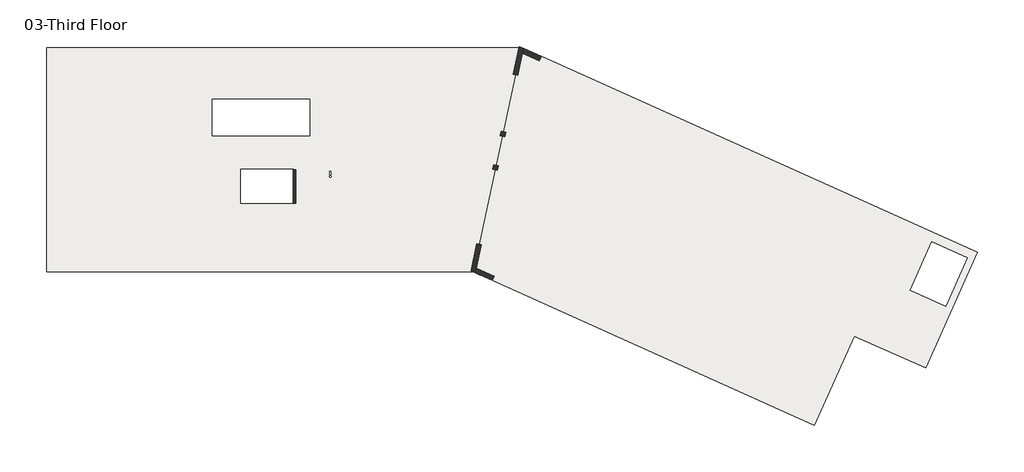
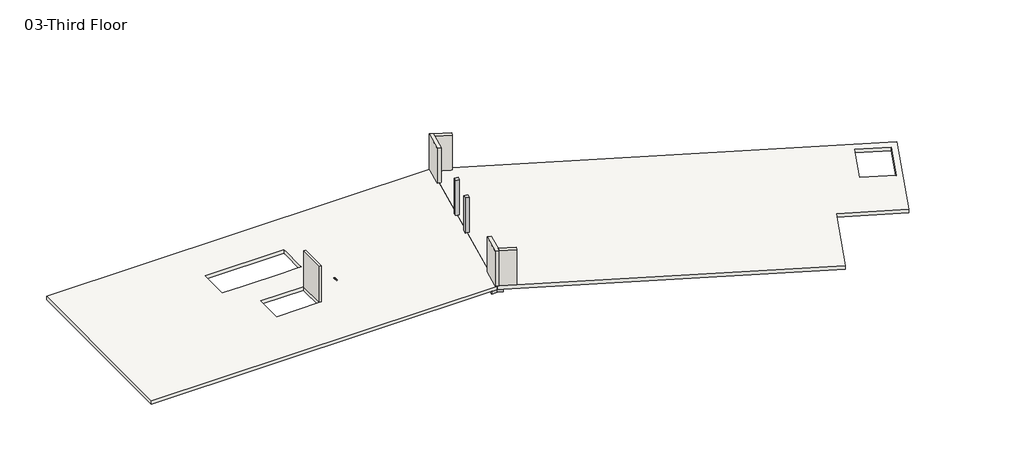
# One storey: 5 walls, 3 beams, 2 columns, 2 slabs.
"""IFC4 building model written with IfcOpenShell, lengths in millimetres."""

from ifc_helpers import new_model, si_unit, frame, origin, place, context, project, spatial, polyline, circle_curve, outline, extrude, faceted_brep, element, save
from ifc_brep_helpers import plane_surface, revolved_surface, advanced_brep

model = new_model("IFC4")

# Units and contexts
model_context = context("Model", 3, world=origin())
ifc_project = project(units=[si_unit("LENGTHUNIT", "METRE", prefix="MILLI")], contexts=[model_context])

# Site, building, storey
site = spatial("IfcSite", under=ifc_project)
building = spatial("IfcBuilding", under=site)
storey = spatial("IfcBuildingStorey", under=building, Name="03-Third Floor", Elevation=10058.4)

# Beams
placement = place(None, origin())
element("IfcBeam", 1, ObjectType="Concrete-Rectangular Beam : 33\" x 18\"", at=placement, inside=storey, context=model_context, shape_type="SweptSolid", body=[
    extrude(outline(polyline([(30288.1466789, -5386.3746605), (29418.8803327, -5200.1033006), (30631.1596114, 457.2), (31098.7387393, 457.2), (31501.5663945, 276.250679), (30288.1466789, -5386.3746605)])), frame((0.0, 0.0, 9525.0), z_axis=(0.0, 0.0, 1.0), x_axis=(1.0, 0.0, 0.0)), (0.0, 0.0, 1.0), 228.6),
])
element("IfcBeam", 2, ObjectType="Concrete-Rectangular Beam : 33\" x 18\"", at=placement, inside=storey, context=model_context, shape_type="SweptSolid", body=[
    extrude(outline(polyline([(28946.1350665, -7406.2478765), (29418.8803327, -5200.1033006), (30288.1466789, -5386.3746605), (29815.4014126, -7592.5192364), (28946.1350665, -7406.2478765)])), frame((0.0, 0.0, 9525.0), z_axis=(0.0, 0.0, 1.0), x_axis=(1.0, 0.0, 0.0)), (0.0, 0.0, 1.0), 228.6),
])
element("IfcBeam", 3, ObjectType="Concrete-Rectangular Beam : 33\" x 18\"", at=placement, inside=storey, context=model_context, shape_type="SweptSolid", body=[
    extrude(outline(polyline([(28946.1350665, -7406.2478765), (29815.4014126, -7592.5192364), (28306.6092516, -14633.549321), (27903.7815965, -14452.6), (27436.2024686, -14452.6), (28946.1350665, -7406.2478765)])), frame((0.0, 0.0, 9525.0), z_axis=(0.0, 0.0, 1.0), x_axis=(1.0, 0.0, 0.0)), (0.0, 0.0, 1.0), 228.6),
])

# Columns
element("IfcColumn", 4, ObjectType="Concrete-Rectangular-Column : 12 x 12", at=placement, inside=storey, context=model_context, shape_type="SweptSolid", body=[
    extrude(outline(polyline([(29275.3181702, -7324.750679), (29573.3523461, -7388.6151452), (29509.4878798, -7686.649321), (29211.453704, -7622.7848548), (29275.3181702, -7324.750679)])), frame((0.0, 0.0, 10058.4), z_axis=(0.0, 0.0, 1.0), x_axis=(1.0, 0.0, 0.0)), (0.0, 0.0, 1.0), 3048.0),
])
element("IfcColumn", 5, ObjectType="Concrete-Rectangular-Column : 12 x 12", at=placement, inside=storey, context=model_context, shape_type="SweptSolid", body=[
    extrude(outline(polyline([(29748.8467417, -5114.950679), (30046.8809175, -5178.8151452), (29983.0164512, -5476.849321), (29684.9822754, -5412.9848548), (29748.8467417, -5114.950679)])), frame((0.0, 0.0, 10058.4), z_axis=(0.0, 0.0, 1.0), x_axis=(1.0, 0.0, 0.0)), (0.0, 0.0, 1.0), 3048.0),
])

# Slabs
element("IfcSlab", 6, ObjectType="RC Slab 12\"", at=placement, inside=storey, context=model_context, shape_type="AdvancedBrep", body=[
    advanced_brep(
    [(-457.2, 457.2, 9753.6), (30631.1596114, 457.2, 9753.6), (31098.7387393, 457.2, 9753.6), (27903.7815965, -14452.6, 9753.6), (27436.2024686, -14452.6, 9753.6), (-457.2, -14452.6, 9753.6), (17030.7, -2984.5, 9753.6), (10553.7, -2984.5, 9753.6), (10553.7, -5422.9, 9753.6), (10858.5, -5422.9, 9753.6), (17030.7, -5422.9, 9753.6), (17030.7, -5118.1, 9753.6), (17030.7, -3289.3, 9753.6), (18347.8020543, -8109.4381113, 9753.6), (18449.4020543, -8109.4381113, 9753.6), (18347.8020543, -7957.0381113, 9753.6), (18449.4020543, -7957.0381113, 9753.6), (18347.8020543, -7804.6381113, 9753.6), (18449.4020543, -7804.6381113, 9753.6), (15951.2, -7633.3081651, 9753.6), (12446.0, -7633.3081651, 9753.6), (12446.0, -7683.5, 9753.6), (12446.0, -9893.3, 9753.6), (15951.2, -9893.3, 9753.6), (15951.2, -7683.5, 9753.6), (31098.7387393, 457.2, 10058.4), (-457.2, 457.2, 10058.4), (-457.2, -14452.6, 10058.4), (27903.7815965, -14452.6, 10058.4), (10553.7, -2984.5, 10058.4), (17030.7, -2984.5, 10058.4), (17030.7, -3289.3, 10058.4), (17030.7, -5118.1, 10058.4), (17030.7, -5422.9, 10058.4), (16522.7, -5422.9, 10058.4), (15608.3, -5422.9, 10058.4), (14389.1, -5422.9, 10058.4), (13474.7, -5422.9, 10058.4), (12242.8, -5422.9, 10058.4), (11328.4, -5422.9, 10058.4), (10553.7, -5422.9, 10058.4), (18449.4020543, -8109.4381113, 10058.4), (18347.8020543, -8109.4381113, 10058.4), (18449.4020543, -7957.0381113, 10058.4), (18347.8020543, -7957.0381113, 10058.4), (18449.4020543, -7804.6381113, 10058.4), (18347.8020543, -7804.6381113, 10058.4), (12446.0, -7633.3081651, 10058.4), (15951.2, -7633.3081651, 10058.4), (15951.2, -7683.5, 10058.4), (15951.2, -9893.3, 10058.4), (12446.0, -9893.3, 10058.4), (12446.0, -7683.5, 10058.4)],
    [
        (0, 1),
        (1, 2),
        (2, 3),
        (3, 4),
        (4, 5),
        (5, 0),
        (6, 7),
        (7, 8),
        (8, 9),
        (9, 10),
        (10, 11),
        (11, 12),
        (12, 6),
        (13, 14, circle_curve(frame((18398.6020543, -8109.4381113, 9753.6), z_axis=(0.0, 0.0, 1.0), x_axis=(1.0, 0.0, 0.0)), 50.8)),
        (14, 13, circle_curve(frame((18398.6020543, -8109.4381113, 9753.6), z_axis=(0.0, 0.0, 1.0), x_axis=(1.0, 0.0, 0.0)), 50.8)),
        (15, 16, circle_curve(frame((18398.6020543, -7957.0381113, 9753.6), z_axis=(0.0, 0.0, 1.0), x_axis=(1.0, 0.0, 0.0)), 50.8)),
        (16, 15, circle_curve(frame((18398.6020543, -7957.0381113, 9753.6), z_axis=(0.0, 0.0, 1.0), x_axis=(1.0, 0.0, 0.0)), 50.8)),
        (17, 18, circle_curve(frame((18398.6020543, -7804.6381113, 9753.6), z_axis=(0.0, 0.0, 1.0), x_axis=(1.0, 0.0, 0.0)), 50.8)),
        (18, 17, circle_curve(frame((18398.6020543, -7804.6381113, 9753.6), z_axis=(0.0, 0.0, 1.0), x_axis=(1.0, 0.0, 0.0)), 50.8)),
        (19, 20),
        (20, 21),
        (21, 22),
        (22, 23),
        (23, 24),
        (24, 19),
        (25, 26),
        (26, 27),
        (27, 28),
        (28, 25),
        (29, 30),
        (30, 31),
        (31, 32),
        (32, 33),
        (33, 34),
        (34, 35),
        (35, 36),
        (36, 37),
        (37, 38),
        (38, 39),
        (39, 40),
        (40, 29),
        (41, 42, circle_curve(frame((18398.6020543, -8109.4381113, 10058.4), z_axis=(0.0, 0.0, -1.0), x_axis=(1.0, 0.0, 0.0)), 50.8)),
        (42, 41, circle_curve(frame((18398.6020543, -8109.4381113, 10058.4), z_axis=(0.0, 0.0, -1.0), x_axis=(1.0, 0.0, 0.0)), 50.8)),
        (43, 44, circle_curve(frame((18398.6020543, -7957.0381113, 10058.4), z_axis=(0.0, 0.0, -1.0), x_axis=(1.0, 0.0, 0.0)), 50.8)),
        (44, 43, circle_curve(frame((18398.6020543, -7957.0381113, 10058.4), z_axis=(0.0, 0.0, -1.0), x_axis=(1.0, 0.0, 0.0)), 50.8)),
        (45, 46, circle_curve(frame((18398.6020543, -7804.6381113, 10058.4), z_axis=(0.0, 0.0, -1.0), x_axis=(1.0, 0.0, 0.0)), 50.8)),
        (46, 45, circle_curve(frame((18398.6020543, -7804.6381113, 10058.4), z_axis=(0.0, 0.0, -1.0), x_axis=(1.0, 0.0, 0.0)), 50.8)),
        (47, 48),
        (48, 49),
        (49, 50),
        (50, 51),
        (51, 52),
        (52, 47),
        (0, 26),
        (25, 2),
        (28, 3),
        (27, 5),
        (6, 30),
        (29, 7),
        (40, 8),
        (33, 10),
        (19, 48),
        (47, 20),
        (51, 22),
        (50, 23),
        (13, 42),
        (41, 14),
        (15, 44),
        (43, 16),
        (17, 46),
        (45, 18),
    ],
    [
        plane_surface(frame((0.0, 457.2, 9753.6), z_axis=(0.0, 0.0, -1.0), x_axis=(1.0, 0.0, 0.0))),
        plane_surface(frame((0.0, 457.2, 10058.4), z_axis=(0.0, 0.0, 1.0), x_axis=(-1.0, 0.0, 0.0))),
        plane_surface(frame((-457.2, 457.2, 9753.6), z_axis=(0.0, 1.0, 0.0), x_axis=(0.0, 0.0, 1.0))),
        plane_surface(frame((31098.7387393, 457.2, 9753.6), z_axis=(0.9778024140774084, -0.2095290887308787, 0.0), x_axis=(0.0, 0.0, 1.0))),
        plane_surface(frame((27903.7815965, -14452.6, 9753.6), z_axis=(0.0, -1.0, 0.0), x_axis=(0.0, 0.0, 1.0))),
        plane_surface(frame((-457.2, -14452.6, 9753.6), z_axis=(-1.0, 0.0, 0.0), x_axis=(0.0, 0.0, 1.0))),
        plane_surface(frame((17030.7, -2984.5, 17068.8), z_axis=(0.0, -1.0, 0.0), x_axis=(0.0, 0.0, -1.0))),
        plane_surface(frame((10553.7, -2984.5, 17068.8), z_axis=(1.0, 0.0, 0.0), x_axis=(0.0, 0.0, -1.0))),
        plane_surface(frame((10553.7, -5422.9, 17068.8), z_axis=(0.0, 1.0, 0.0), x_axis=(0.0, 0.0, -1.0))),
        plane_surface(frame((17030.7, -5422.9, 17068.8), z_axis=(-1.0, 0.0, 0.0), x_axis=(0.0, 0.0, -1.0))),
        plane_surface(frame((15951.2, -7633.3081651, 17068.8), z_axis=(0.0, -1.0, 0.0), x_axis=(0.0, 0.0, -1.0))),
        plane_surface(frame((12446.0, -7633.3081651, 17068.8), z_axis=(1.0, 0.0, 0.0), x_axis=(0.0, 0.0, -1.0))),
        plane_surface(frame((12446.0, -9893.3, 17068.8), z_axis=(0.0, 1.0, 0.0), x_axis=(0.0, 0.0, -1.0))),
        plane_surface(frame((15951.2, -9893.3, 17068.8), z_axis=(-1.0, 0.0, 0.0), x_axis=(0.0, 0.0, -1.0))),
        revolved_surface(polyline([(18449.4020543, -8109.4381113, 10058.4), (18449.4020543, -8109.4381113, 9753.6)]), (18398.6020543, -8109.4381113, 9448.8), (0.0, 0.0, 1.0)),
        revolved_surface(polyline([(18449.4020543, -7957.0381113, 10058.4), (18449.4020543, -7957.0381113, 9753.6)]), (18398.6020543, -7957.0381113, 9448.8), (0.0, 0.0, 1.0)),
        revolved_surface(polyline([(18449.4020543, -7804.6381113, 10058.4), (18449.4020543, -7804.6381113, 9753.6)]), (18398.6020543, -7804.6381113, 9448.8), (0.0, 0.0, 1.0)),
    ],
    [
        (0, [[1, 2, 3, 4, 5, 6], [7, 8, 9, 10, 11, 12, 13], [14, 15], [16, 17], [18, 19], [20, 21, 22, 23, 24, 25]]),
        (1, [[26, 27, 28, 29], [30, 31, 32, 33, 34, 35, 36, 37, 38, 39, 40, 41], [42, 43], [44, 45], [46, 47], [48, 49, 50, 51, 52, 53]]),
        (2, [[-2, -1, 54, -26, 55]]),
        (3, [[-3, -55, -29, 56]]),
        (4, [[-5, -4, -56, -28, 57]]),
        (5, [[-6, -57, -27, -54]]),
        (6, [[58, -30, 59, -7]]),
        (7, [[-59, -41, 60, -8]]),
        (8, [[-60, -40, -39, -38, -37, -36, -35, -34, 61, -10, -9]]),
        (9, [[-58, -13, -12, -11, -61, -33, -32, -31]]),
        (10, [[62, -48, 63, -20]]),
        (11, [[-63, -53, -52, 64, -22, -21]]),
        (12, [[-64, -51, 65, -23]]),
        (13, [[-62, -25, -24, -65, -50, -49]]),
        (14, [[66, -42, 67, -14]]),
        (14, [[-66, -15, -67, -43]]),
        (15, [[68, -44, 69, -16]]),
        (15, [[-68, -17, -69, -45]]),
        (16, [[70, -46, 71, -18]]),
        (16, [[-70, -19, -71, -47]]),
    ],
),
])
element("IfcSlab", 7, ObjectType="RC Slab 12\"", at=placement, inside=storey, context=model_context, shape_type="Brep", body=[
    faceted_brep([(61413.0546278, -13159.9258537, 9753.6), (57962.8673107, -20840.7, 9753.6), (53236.2370668, -18717.5078049, 9753.6), (50577.0429205, -24637.3804878, 9753.6), (28306.6092516, -14633.549321, 9753.6), (27903.7815965, -14452.6, 9753.6), (31098.7387393, 457.2, 9753.6), (31501.5663945, 276.250679, 9753.6), (59309.9346278, -16726.0858537, 9753.6), (60746.211701, -13528.6595122, 9753.6), (58382.896579, -12467.0634146, 9753.6), (56946.6195059, -15664.4897561, 9753.6), (57962.8673107, -20840.7, 10058.4), (61413.0546278, -13159.9258537, 10058.4), (32422.724802, -137.5317073, 10058.4), (31240.9132058, 393.3355338, 10058.4), (31098.7387393, 457.2, 10058.4), (27903.7815965, -14452.6, 10058.4), (28045.956063, -14516.4644662, 10058.4), (29168.1882864, -15020.5687805, 10058.4), (50577.0429205, -24637.3804878, 10058.4), (53236.2370668, -18717.5078049, 10058.4), (60746.211701, -13528.6595122, 10058.4), (59309.9346278, -16726.0858537, 10058.4), (56946.6195059, -15664.4897561, 10058.4), (58382.896579, -12467.0634146, 10058.4)], [[[0, 1, 2, 3, 4, 5, 6, 7], [8, 9, 10, 11]], [[12, 13, 14, 15, 16, 17, 18, 19, 20, 21], [22, 23, 24, 25]], [[1, 0, 13, 12]], [[2, 1, 12, 21]], [[3, 2, 21, 20]], [[5, 4, 3, 20, 19, 18, 17]], [[6, 5, 17, 16]], [[0, 7, 6, 16, 15, 14, 13]], [[8, 23, 22, 9]], [[9, 22, 25, 10]], [[10, 25, 24, 11]], [[23, 8, 11, 24]]]),
])

# Walls
element("IfcWall", 8, ObjectType="6\" Blockwork with render", at=placement, inside=storey, context=model_context, shape_type="SweptSolid", body=[
    extrude(outline(polyline([(16103.6, -7683.5), (16103.6, -9893.3), (15951.2, -9893.3), (15951.2, -7683.5), (16103.6, -7683.5)])), frame((0.0, 0.0, 10058.4), z_axis=(0.0, 0.0, 1.0), x_axis=(1.0, 0.0, 0.0)), (0.0, 0.0, 1.0), 3149.6),
])
element("IfcWall", 9, ObjectType="RC Wall 12\"", at=placement, inside=storey, context=model_context, shape_type="Brep", body=[
    faceted_brep([(30956.5642728, 521.0644662, 10058.4), (30564.3601247, -1309.221558, 10058.4), (30564.3601247, -1309.221558, 13106.4), (30956.5642728, 521.0644662, 13106.4), (30862.3943005, -1373.0860243, 10058.4), (31175.5989201, 88.5355338, 10058.4), (31240.9132058, 393.3355338, 10058.4), (31240.9132058, 393.3355338, 13106.4), (31175.5989201, 88.5355338, 13106.4), (30862.3943005, -1373.0860243, 13106.4), (31098.7387393, 457.2, 10058.4)], [[[0, 1, 2, 3]], [[4, 5, 6, 7, 8, 9]], [[1, 0, 10, 6, 5, 4]], [[1, 4, 9, 2]], [[6, 10, 0, 3, 7]], [[3, 2, 9, 8, 7]]]),
])
element("IfcWall", 10, ObjectType="RC Wall 12\"", at=placement, inside=storey, context=model_context, shape_type="SweptSolid", body=[
    extrude(outline(polyline([(32297.8311435, -415.5687805), (31175.5989201, 88.5355338), (31240.9132058, 393.3355338), (32422.724802, -137.5317073), (32297.8311435, -415.5687805)])), frame((0.0, 0.0, 10058.4), z_axis=(0.0, 0.0, 1.0), x_axis=(1.0, 0.0, 0.0)), (0.0, 0.0, 1.0), 3048.0),
])
element("IfcWall", 11, ObjectType="RC Wall 12\"", at=placement, inside=storey, context=model_context, shape_type="Brep", body=[
    faceted_brep([(28150.0697886, -12575.9097931, 10058.4), (27761.6071299, -14388.7355338, 10058.4), (27761.6071299, -14388.7355338, 13106.4), (28150.0697886, -12575.9097931, 13106.4), (28045.956063, -14516.4644662, 10058.4), (28111.2703487, -14211.6644662, 10058.4), (28448.1039645, -12639.7742594, 10058.4), (28448.1039645, -12639.7742594, 13106.4), (28111.2703487, -14211.6644662, 13106.4), (28045.956063, -14516.4644662, 13106.4), (27903.7815965, -14452.6, 10058.4)], [[[0, 1, 2, 3]], [[4, 5, 6, 7, 8, 9]], [[1, 0, 6, 5, 4, 10]], [[6, 0, 3, 7]], [[1, 10, 4, 9, 2]], [[3, 2, 9, 8, 7]]]),
])
element("IfcWall", 12, ObjectType="RC Wall 12\"", at=placement, inside=storey, context=model_context, shape_type="SweptSolid", body=[
    extrude(outline(polyline([(29168.1882864, -15020.5687805), (28045.956063, -14516.4644662), (28111.2703487, -14211.6644662), (29293.0819449, -14742.5317073), (29168.1882864, -15020.5687805)])), frame((0.0, 0.0, 10058.4), z_axis=(0.0, 0.0, 1.0), x_axis=(1.0, 0.0, 0.0)), (0.0, 0.0, 1.0), 3048.0),
])

save(model, "model.ifc")
